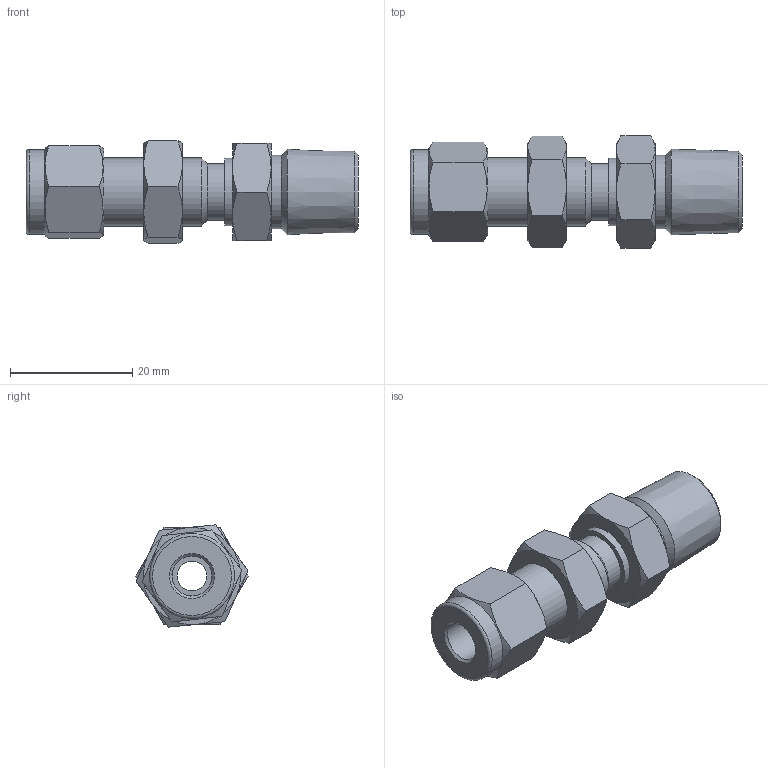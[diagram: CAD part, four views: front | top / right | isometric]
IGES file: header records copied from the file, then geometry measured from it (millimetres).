
Global section: file name: No Iges File Name specified; native system: Autodesk Inventor 2012; preprocessor: AutoDesk Inventor Iges Exporter R2012; author: 硅己绕,, ; organization: 11; date: 20150603.092507; units: millimetre
Bounding box: 54.24 x 18.33 x 16.71 mm (x, y, z)
Volume: 6767.8 mm3; surface area: 5006.1 mm2
Topology: 3 solids, 3 shells, 76 faces, 155 edges, 91 vertices
Faces by surface type: cone 31, plane 30, revolution 8, cylinder 6, torus 1
Full cylindrical faces by diameter (mm): 9.3 x1, 9.4 x1, 11.1 x1, 11.113 x1, 12 x1, 13.9 x1
